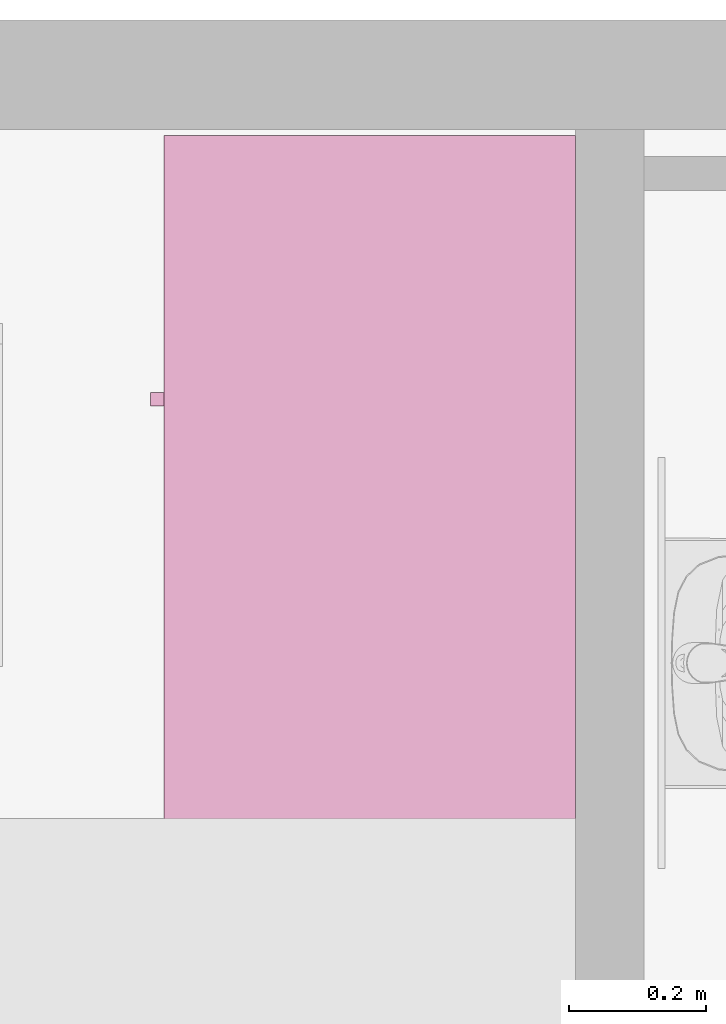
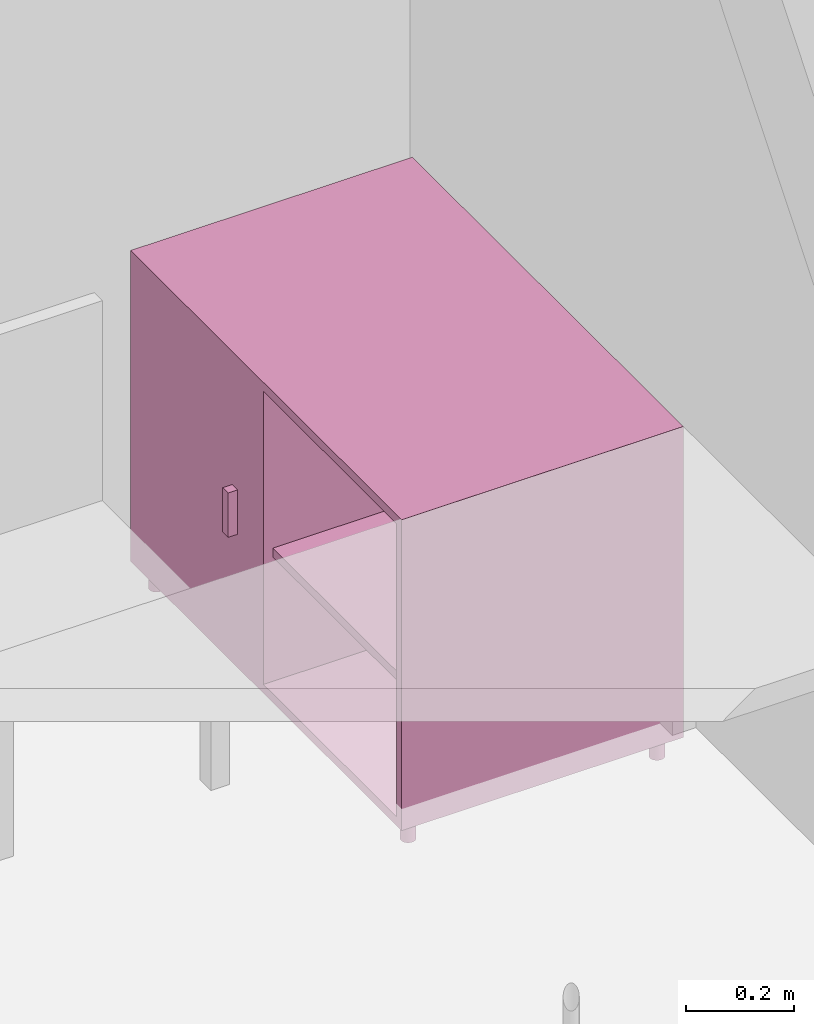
"""IFC4 building model written with IfcOpenShell, lengths in metres."""

from ifc_helpers import new_model, entity, si_unit, converted_unit, derived_unit, frame, origin, place, context, subcontext, project, spatial, faceted_brep, element, save


model = new_model("IFC4")

# Units and contexts
model_context = context("Model", 3, precision=1e-05, world=origin())
body_context = subcontext(model_context, "Body", "Model", "MODEL_VIEW")
ifc_project = project(units=[si_unit("LENGTHUNIT", "METRE"), si_unit("AREAUNIT", "SQUARE_METRE"), si_unit("VOLUMEUNIT", "CUBIC_METRE"), si_unit("MASSUNIT", "GRAM", prefix="KILO"), converted_unit("PLANEANGLEUNIT", "DEGREE", entity("IfcPlaneAngleMeasure", 0.0174532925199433), si_unit("PLANEANGLEUNIT", "RADIAN"), dimensions=[0, 0, 0, 0, 0, 0, 0]), derived_unit("THERMALTRANSMITTANCEUNIT", [(si_unit("POWERUNIT", "WATT"), 1), (si_unit("THERMODYNAMICTEMPERATUREUNIT", "KELVIN"), -1), (si_unit("LENGTHUNIT", "METRE"), -2)]), derived_unit("VOLUMETRICFLOWRATEUNIT", [(si_unit("LENGTHUNIT", "METRE"), 3), (converted_unit("TIMEUNIT", "hour", entity("IfcTimeMeasure", 3600.0), si_unit("TIMEUNIT", "SECOND"), dimensions=[0, 0, 1, 0, 0, 0, 0]), -1), (si_unit("LENGTHUNIT", "METRE"), -1)])], contexts=[model_context])

# Building, storeys
building_placement = place(None, origin())
building = spatial("IfcBuilding", under=ifc_project, at=building_placement, Name="HABITATGE PLURIFAMILIAR", CompositionType="ELEMENT")
storey_1_placement = place(building_placement, frame((0.0, 0.0, 9.26)))
storey_1 = spatial("IfcBuildingStorey", under=building, at=storey_1_placement, Name="PLANTA SEGONA", CompositionType="ELEMENT", Elevation=9.26)
storey_2_placement = place(storey_1_placement, frame((0.0, 0.0, 6.25)))
storey_2 = spatial("IfcBuildingStorey", under=storey_1, at=storey_2_placement, Name="NOU", CompositionType="PARTIAL")

# Furniture
furniture_placement = place(storey_2_placement, frame((403.716723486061, 27.0594940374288, -6.3499999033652)))
element("IfcFurniture", 1, at=furniture_placement, inside=storey_2, Name="Taula 100X60_P2", context=body_context, shape_type="Brep", body=[
    faceted_brep([(0.620000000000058, 0.0, 0.05), (0.02, 0.0, 0.05), (0.02, 0.0, 0.07), (0.620000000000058, 0.0, 0.07), (0.02, 1.00000000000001, 0.05), (0.02, 1.00000000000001, 0.07), (0.620000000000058, 1.00000000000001, 0.05), (0.620000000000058, 1.00000000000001, 0.07)], [[[0, 1, 2, 3]], [[1, 4, 5, 2]], [[4, 6, 7, 5]], [[6, 0, 3, 7]], [[0, 6, 4, 1]], [[3, 2, 5, 7]]], orient=[[False], [False], [False], [False], [False], [False]]),
    faceted_brep([(0.04, 0.0, 0.35), (0.62, 0.0, 0.35), (0.62, 1.0, 0.35), (0.04, 1.00000000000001, 0.35), (0.62, 0.0, 0.37), (0.04, 0.0, 0.37), (0.04, 1.00000000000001, 0.37), (0.62, 1.0, 0.37)], [[[0, 1, 2, 3]], [[4, 5, 6, 7]], [[1, 0, 5, 4]], [[2, 1, 4, 7]], [[3, 2, 7, 6]], [[0, 3, 6, 5]]], orient=[[False], [False], [False], [False], [False], [False]]),
    faceted_brep([(0.04, 0.510000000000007, 0.75), (0.04, 0.510000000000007, 0.05), (0.02, 0.510000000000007, 0.05), (0.02, 0.510000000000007, 0.75), (0.04, 1.00000000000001, 0.05), (0.02, 1.00000000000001, 0.05), (0.04, 1.00000000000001, 0.75), (0.02, 1.00000000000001, 0.75)], [[[0, 1, 2, 3]], [[1, 4, 5, 2]], [[4, 6, 7, 5]], [[6, 0, 3, 7]], [[0, 6, 4, 1]], [[3, 2, 5, 7]]], orient=[[False], [False], [False], [False], [False], [False]]),
    faceted_brep([(0.62, 0.0200000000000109, 0.75), (0.620000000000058, 0.0200000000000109, 0.0499999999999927), (0.620000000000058, 0.0, 0.0499999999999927), (0.62, 0.0, 0.75), (0.02, 0.0200000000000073, 0.05), (0.02, 0.0, 0.05), (0.02, 0.0200000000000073, 0.75), (0.02, 0.0, 0.75)], [[[0, 1, 2, 3]], [[1, 4, 5, 2]], [[4, 6, 7, 5]], [[6, 0, 3, 7]], [[0, 6, 4, 1]], [[3, 2, 5, 7]]], orient=[[False], [False], [False], [False], [False], [False]]),
    faceted_brep([(0.62, 0.530000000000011, 0.75), (0.620000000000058, 0.530000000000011, 0.0499999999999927), (0.620000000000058, 0.510000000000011, 0.0499999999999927), (0.62, 0.510000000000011, 0.75), (0.02, 0.530000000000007, 0.05), (0.02, 0.510000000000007, 0.05), (0.02, 0.530000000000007, 0.75), (0.02, 0.510000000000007, 0.75)], [[[0, 1, 2, 3]], [[1, 4, 5, 2]], [[4, 6, 7, 5]], [[6, 0, 3, 7]], [[0, 6, 4, 1]], [[3, 2, 5, 7]]], orient=[[False], [False], [False], [False], [False], [False]]),
    faceted_brep([(0.620000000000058, 0.530000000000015, 0.750000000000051), (0.620000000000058, 0.530000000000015, 0.0499999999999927), (0.620000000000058, 0.510000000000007, 0.0499999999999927), (0.620000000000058, 0.510000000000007, 0.750000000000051), (0.0400000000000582, 0.530000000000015, 0.0499999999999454), (0.0400000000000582, 0.510000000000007, 0.0499999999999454), (0.04, 0.530000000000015, 0.750000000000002), (0.04, 0.510000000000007, 0.750000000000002)], [[[0, 1, 2, 3]], [[1, 4, 5, 2]], [[4, 6, 7, 5]], [[6, 0, 3, 7]], [[0, 6, 4, 1]], [[3, 2, 5, 7]]], orient=[[False], [False], [False], [False], [False], [False]]),
    faceted_brep([(0.62, 1.00000000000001, 0.75), (0.620000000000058, 1.00000000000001, 0.0499999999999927), (0.620000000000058, 0.980000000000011, 0.0499999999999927), (0.62, 0.980000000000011, 0.75), (0.02, 1.00000000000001, 0.05), (0.02, 0.980000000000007, 0.05), (0.02, 1.00000000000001, 0.75), (0.02, 0.980000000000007, 0.75)], [[[0, 1, 2, 3]], [[1, 4, 5, 2]], [[4, 6, 7, 5]], [[6, 0, 3, 7]], [[0, 6, 4, 1]], [[3, 2, 5, 7]]], orient=[[False], [False], [False], [False], [False], [False]]),
    faceted_brep([(0.620000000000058, 0.0, 0.73), (0.02, 0.0, 0.73), (0.02, 0.0, 0.75), (0.620000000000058, 0.0, 0.75), (0.02, 1.00000000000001, 0.73), (0.02, 1.00000000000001, 0.75), (0.620000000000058, 1.00000000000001, 0.73), (0.620000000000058, 1.00000000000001, 0.75)], [[[0, 1, 2, 3]], [[1, 4, 5, 2]], [[4, 6, 7, 5]], [[6, 0, 3, 7]], [[0, 6, 4, 1]], [[3, 2, 5, 7]]], orient=[[False], [False], [False], [False], [False], [False]]),
    faceted_brep([(0.62, 0.0200000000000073, 0.75), (0.62, 0.0200000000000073, 0.05), (0.6, 0.0200000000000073, 0.05), (0.6, 0.0200000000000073, 0.75), (0.62, 1.00000000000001, 0.05), (0.6, 1.00000000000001, 0.05), (0.62, 1.00000000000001, 0.75), (0.6, 1.00000000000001, 0.75)], [[[0, 1, 2, 3]], [[1, 4, 5, 2]], [[4, 6, 7, 5]], [[6, 0, 3, 7]], [[0, 6, 4, 1]], [[3, 2, 5, 7]]], orient=[[False], [False], [False], [False], [False], [False]]),
    faceted_brep([(0.02, 0.625579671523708, 0.35), (0.0, 0.625579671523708, 0.35), (0.0, 0.605579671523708, 0.35), (0.02, 0.605579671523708, 0.35), (0.02, 0.605579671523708, 0.45), (0.0, 0.605579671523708, 0.45), (0.0, 0.625579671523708, 0.45), (0.02, 0.625579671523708, 0.45)], [[[0, 1, 2, 3]], [[4, 5, 6, 7]], [[3, 4, 7, 0]], [[2, 5, 4, 3]], [[1, 6, 5, 2]], [[0, 7, 6, 1]]], orient=[[False], [False], [False], [False], [False], [False]]),
    faceted_brep([(0.583821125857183, 0.049936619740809, 0.0), (0.581227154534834, 0.0497096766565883, 0.0), (0.578711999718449, 0.0490357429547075, 0.0), (0.5763520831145, 0.0479352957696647, 0.0), (0.574219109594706, 0.0464417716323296, 0.0), (0.57237788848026, 0.0446005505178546, 0.0), (0.570884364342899, 0.0424675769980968, 0.0), (0.569783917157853, 0.0401076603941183, 0.0), (0.569109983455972, 0.0375925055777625, 0.0), (0.568883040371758, 0.0349985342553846, 0.0), (0.569109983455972, 0.0324045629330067, 0.0), (0.569783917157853, 0.0298894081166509, 0.0), (0.570884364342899, 0.0275294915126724, 0.0), (0.57237788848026, 0.0253965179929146, 0.0), (0.574219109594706, 0.0235552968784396, 0.0), (0.5763520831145, 0.0220617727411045, 0.0), (0.578711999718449, 0.0209613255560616, 0.0), (0.581227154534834, 0.0202873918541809, 0.0), (0.583821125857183, 0.0200604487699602, 0.0), (0.586415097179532, 0.0202873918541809, 0.0), (0.588930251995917, 0.0209613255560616, 0.0), (0.591290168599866, 0.0220617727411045, 0.0), (0.59342314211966, 0.0235552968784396, 0.0), (0.595264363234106, 0.0253965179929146, 0.0), (0.596757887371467, 0.0275294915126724, 0.0), (0.597858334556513, 0.0298894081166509, 0.0), (0.598532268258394, 0.0324045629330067, 0.0), (0.598759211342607, 0.0349985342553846, 0.0), (0.598532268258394, 0.0375925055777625, 0.0), (0.597858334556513, 0.0401076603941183, 0.0), (0.596757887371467, 0.0424675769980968, 0.0), (0.595264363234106, 0.0446005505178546, 0.0), (0.59342314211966, 0.0464417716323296, 0.0), (0.591290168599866, 0.0479352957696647, 0.0), (0.588930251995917, 0.0490357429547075, 0.0), (0.586415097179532, 0.0497096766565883, 0.0), (0.583821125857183, 0.049936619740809, 0.05), (0.586415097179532, 0.0497096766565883, 0.05), (0.588930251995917, 0.0490357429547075, 0.05), (0.591290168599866, 0.0479352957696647, 0.05), (0.59342314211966, 0.0464417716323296, 0.05), (0.595264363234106, 0.0446005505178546, 0.05), (0.596757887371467, 0.0424675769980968, 0.05), (0.597858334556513, 0.0401076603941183, 0.05), (0.598532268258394, 0.0375925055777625, 0.05), (0.598759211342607, 0.0349985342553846, 0.05), (0.598532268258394, 0.0324045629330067, 0.05), (0.597858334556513, 0.0298894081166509, 0.05), (0.596757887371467, 0.0275294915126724, 0.05), (0.595264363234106, 0.0253965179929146, 0.05), (0.59342314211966, 0.0235552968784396, 0.05), (0.591290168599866, 0.0220617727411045, 0.05), (0.588930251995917, 0.0209613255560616, 0.05), (0.586415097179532, 0.0202873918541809, 0.05), (0.583821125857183, 0.0200604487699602, 0.05), (0.581227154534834, 0.0202873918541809, 0.05), (0.578711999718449, 0.0209613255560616, 0.05), (0.5763520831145, 0.0220617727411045, 0.05), (0.574219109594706, 0.0235552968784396, 0.05), (0.57237788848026, 0.0253965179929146, 0.05), (0.570884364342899, 0.0275294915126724, 0.05), (0.569783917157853, 0.0298894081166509, 0.05), (0.569109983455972, 0.0324045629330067, 0.05), (0.568883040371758, 0.0349985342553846, 0.05), (0.569109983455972, 0.0375925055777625, 0.05), (0.569783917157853, 0.0401076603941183, 0.05), (0.570884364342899, 0.0424675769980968, 0.05), (0.57237788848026, 0.0446005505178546, 0.05), (0.574219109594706, 0.0464417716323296, 0.05), (0.5763520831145, 0.0479352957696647, 0.05), (0.578711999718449, 0.0490357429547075, 0.05), (0.581227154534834, 0.0497096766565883, 0.05)], [[[0, 1, 2, 3, 4, 5, 6, 7, 8, 9, 10, 11, 12, 13, 14, 15, 16, 17, 18, 19, 20, 21, 22, 23, 24, 25, 26, 27, 28, 29, 30, 31, 32, 33, 34, 35]], [[36, 37, 38, 39, 40, 41, 42, 43, 44, 45, 46, 47, 48, 49, 50, 51, 52, 53, 54, 55, 56, 57, 58, 59, 60, 61, 62, 63, 64, 65, 66, 67, 68, 69, 70, 71]], [[1, 0, 36, 71]], [[2, 1, 71, 70]], [[3, 2, 70, 69]], [[4, 3, 69, 68]], [[5, 4, 68, 67]], [[6, 5, 67, 66]], [[7, 6, 66, 65]], [[8, 7, 65, 64]], [[9, 8, 64, 63]], [[10, 9, 63, 62]], [[11, 10, 62, 61]], [[12, 11, 61, 60]], [[13, 12, 60, 59]], [[14, 13, 59, 58]], [[15, 14, 58, 57]], [[16, 15, 57, 56]], [[17, 16, 56, 55]], [[18, 17, 55, 54]], [[19, 18, 54, 53]], [[20, 19, 53, 52]], [[21, 20, 52, 51]], [[22, 21, 51, 50]], [[23, 22, 50, 49]], [[24, 23, 49, 48]], [[25, 24, 48, 47]], [[26, 25, 47, 46]], [[27, 26, 46, 45]], [[28, 27, 45, 44]], [[29, 28, 44, 43]], [[30, 29, 43, 42]], [[31, 30, 42, 41]], [[32, 31, 41, 40]], [[33, 32, 40, 39]], [[34, 33, 39, 38]], [[35, 34, 38, 37]], [[0, 35, 37, 36]]], orient=[[False], [False], [False], [False], [False], [False], [False], [False], [False], [False], [False], [False], [False], [False], [False], [False], [False], [False], [False], [False], [False], [False], [False], [False], [False], [False], [False], [False], [False], [False], [False], [False], [False], [False], [False], [False], [False], [False]]),
    faceted_brep([(0.0538211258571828, 0.0499366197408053, 0.0), (0.051227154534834, 0.0497096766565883, 0.0), (0.0487119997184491, 0.0490357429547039, 0.0), (0.0463520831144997, 0.047935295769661, 0.0), (0.0442191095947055, 0.0464417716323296, 0.0), (0.0423778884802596, 0.0446005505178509, 0.0), (0.0408843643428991, 0.0424675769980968, 0.0), (0.0397839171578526, 0.0401076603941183, 0.0), (0.0391099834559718, 0.0375925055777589, 0.0), (0.0388830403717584, 0.0349985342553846, 0.0), (0.0391099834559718, 0.0324045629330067, 0.0), (0.0397839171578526, 0.0298894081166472, 0.0), (0.0408843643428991, 0.0275294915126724, 0.0), (0.0423778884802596, 0.0253965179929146, 0.0), (0.0442191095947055, 0.0235552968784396, 0.0), (0.0463520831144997, 0.0220617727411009, 0.0), (0.0487119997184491, 0.0209613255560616, 0.0), (0.051227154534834, 0.0202873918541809, 0.0), (0.0538211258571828, 0.0200604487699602, 0.0), (0.0564150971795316, 0.0202873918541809, 0.0), (0.0589302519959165, 0.0209613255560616, 0.0), (0.0612901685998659, 0.0220617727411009, 0.0), (0.06342314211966, 0.0235552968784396, 0.0), (0.065264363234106, 0.0253965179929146, 0.0), (0.0667578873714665, 0.0275294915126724, 0.0), (0.067858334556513, 0.0298894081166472, 0.0), (0.0685322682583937, 0.0324045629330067, 0.0), (0.0687592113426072, 0.0349985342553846, 0.0), (0.0685322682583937, 0.0375925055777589, 0.0), (0.067858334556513, 0.0401076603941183, 0.0), (0.0667578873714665, 0.0424675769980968, 0.0), (0.065264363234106, 0.0446005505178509, 0.0), (0.06342314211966, 0.0464417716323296, 0.0), (0.0612901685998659, 0.047935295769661, 0.0), (0.0589302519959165, 0.0490357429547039, 0.0), (0.0564150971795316, 0.0497096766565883, 0.0), (0.0538211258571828, 0.0499366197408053, 0.05), (0.0564150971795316, 0.0497096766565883, 0.05), (0.0589302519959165, 0.0490357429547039, 0.05), (0.0612901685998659, 0.047935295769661, 0.05), (0.06342314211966, 0.0464417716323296, 0.05), (0.065264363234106, 0.0446005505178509, 0.05), (0.0667578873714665, 0.0424675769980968, 0.05), (0.067858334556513, 0.0401076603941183, 0.05), (0.0685322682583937, 0.0375925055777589, 0.05), (0.0687592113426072, 0.0349985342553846, 0.05), (0.0685322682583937, 0.0324045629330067, 0.05), (0.067858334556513, 0.0298894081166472, 0.05), (0.0667578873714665, 0.0275294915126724, 0.05), (0.065264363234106, 0.0253965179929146, 0.05), (0.06342314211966, 0.0235552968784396, 0.05), (0.0612901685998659, 0.0220617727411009, 0.05), (0.0589302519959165, 0.0209613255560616, 0.05), (0.0564150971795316, 0.0202873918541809, 0.05), (0.0538211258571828, 0.0200604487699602, 0.05), (0.051227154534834, 0.0202873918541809, 0.05), (0.0487119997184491, 0.0209613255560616, 0.05), (0.0463520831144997, 0.0220617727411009, 0.05), (0.0442191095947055, 0.0235552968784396, 0.05), (0.0423778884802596, 0.0253965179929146, 0.05), (0.0408843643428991, 0.0275294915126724, 0.05), (0.0397839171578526, 0.0298894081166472, 0.05), (0.0391099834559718, 0.0324045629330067, 0.05), (0.0388830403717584, 0.0349985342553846, 0.05), (0.0391099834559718, 0.0375925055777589, 0.05), (0.0397839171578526, 0.0401076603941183, 0.05), (0.0408843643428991, 0.0424675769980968, 0.05), (0.0423778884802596, 0.0446005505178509, 0.05), (0.0442191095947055, 0.0464417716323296, 0.05), (0.0463520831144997, 0.047935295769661, 0.05), (0.0487119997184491, 0.0490357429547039, 0.05), (0.051227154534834, 0.0497096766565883, 0.05)], [[[0, 1, 2, 3, 4, 5, 6, 7, 8, 9, 10, 11, 12, 13, 14, 15, 16, 17, 18, 19, 20, 21, 22, 23, 24, 25, 26, 27, 28, 29, 30, 31, 32, 33, 34, 35]], [[36, 37, 38, 39, 40, 41, 42, 43, 44, 45, 46, 47, 48, 49, 50, 51, 52, 53, 54, 55, 56, 57, 58, 59, 60, 61, 62, 63, 64, 65, 66, 67, 68, 69, 70, 71]], [[1, 0, 36, 71]], [[2, 1, 71, 70]], [[3, 2, 70, 69]], [[4, 3, 69, 68]], [[5, 4, 68, 67]], [[6, 5, 67, 66]], [[7, 6, 66, 65]], [[8, 7, 65, 64]], [[9, 8, 64, 63]], [[10, 9, 63, 62]], [[11, 10, 62, 61]], [[12, 11, 61, 60]], [[13, 12, 60, 59]], [[14, 13, 59, 58]], [[15, 14, 58, 57]], [[16, 15, 57, 56]], [[17, 16, 56, 55]], [[18, 17, 55, 54]], [[19, 18, 54, 53]], [[20, 19, 53, 52]], [[21, 20, 52, 51]], [[22, 21, 51, 50]], [[23, 22, 50, 49]], [[24, 23, 49, 48]], [[25, 24, 48, 47]], [[26, 25, 47, 46]], [[27, 26, 46, 45]], [[28, 27, 45, 44]], [[29, 28, 44, 43]], [[30, 29, 43, 42]], [[31, 30, 42, 41]], [[32, 31, 41, 40]], [[33, 32, 40, 39]], [[34, 33, 39, 38]], [[35, 34, 38, 37]], [[0, 35, 37, 36]]], orient=[[False], [False], [False], [False], [False], [False], [False], [False], [False], [False], [False], [False], [False], [False], [False], [False], [False], [False], [False], [False], [False], [False], [False], [False], [False], [False], [False], [False], [False], [False], [False], [False], [False], [False], [False], [False], [False], [False]]),
    faceted_brep([(0.0550000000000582, 0.979982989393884, 0.0), (0.0524060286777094, 0.979756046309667, 0.0), (0.0498908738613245, 0.979082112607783, 0.0), (0.0475309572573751, 0.97798166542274, 0.0), (0.0453979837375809, 0.976488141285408, 0.0), (0.043556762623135, 0.97464692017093, 0.0), (0.0420632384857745, 0.972513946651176, 0.0), (0.040962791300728, 0.970154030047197, 0.0), (0.0402888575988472, 0.967638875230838, 0.0), (0.0400619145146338, 0.965044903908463, 0.0), (0.0402888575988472, 0.962450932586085, 0.0), (0.040962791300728, 0.959935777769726, 0.0), (0.0420632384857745, 0.957575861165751, 0.0), (0.043556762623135, 0.955442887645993, 0.0), (0.0453979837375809, 0.953601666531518, 0.0), (0.0475309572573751, 0.95210814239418, 0.0), (0.0498908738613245, 0.95100769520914, 0.0), (0.0524060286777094, 0.95033376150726, 0.0), (0.0550000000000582, 0.950106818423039, 0.0), (0.057593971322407, 0.95033376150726, 0.0), (0.0601091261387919, 0.95100769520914, 0.0), (0.0624690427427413, 0.95210814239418, 0.0), (0.0646020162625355, 0.953601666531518, 0.0), (0.0664432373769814, 0.955442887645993, 0.0), (0.0679367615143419, 0.957575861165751, 0.0), (0.0690372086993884, 0.959935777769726, 0.0), (0.0697111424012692, 0.962450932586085, 0.0), (0.0699380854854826, 0.965044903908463, 0.0), (0.0697111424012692, 0.967638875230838, 0.0), (0.0690372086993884, 0.970154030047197, 0.0), (0.0679367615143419, 0.972513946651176, 0.0), (0.0664432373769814, 0.97464692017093, 0.0), (0.0646020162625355, 0.976488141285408, 0.0), (0.0624690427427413, 0.97798166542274, 0.0), (0.0601091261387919, 0.979082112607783, 0.0), (0.057593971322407, 0.979756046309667, 0.0), (0.0550000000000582, 0.979982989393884, 0.05), (0.057593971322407, 0.979756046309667, 0.05), (0.0601091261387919, 0.979082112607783, 0.05), (0.0624690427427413, 0.97798166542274, 0.05), (0.0646020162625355, 0.976488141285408, 0.05), (0.0664432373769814, 0.97464692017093, 0.05), (0.0679367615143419, 0.972513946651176, 0.05), (0.0690372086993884, 0.970154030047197, 0.05), (0.0697111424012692, 0.967638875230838, 0.05), (0.0699380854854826, 0.965044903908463, 0.05), (0.0697111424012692, 0.962450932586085, 0.05), (0.0690372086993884, 0.959935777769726, 0.05), (0.0679367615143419, 0.957575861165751, 0.05), (0.0664432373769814, 0.955442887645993, 0.05), (0.0646020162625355, 0.953601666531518, 0.05), (0.0624690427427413, 0.95210814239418, 0.05), (0.0601091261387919, 0.95100769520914, 0.05), (0.057593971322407, 0.95033376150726, 0.05), (0.0550000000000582, 0.950106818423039, 0.05), (0.0524060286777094, 0.95033376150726, 0.05), (0.0498908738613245, 0.95100769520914, 0.05), (0.0475309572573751, 0.95210814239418, 0.05), (0.0453979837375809, 0.953601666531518, 0.05), (0.043556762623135, 0.955442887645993, 0.05), (0.0420632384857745, 0.957575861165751, 0.05), (0.040962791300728, 0.959935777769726, 0.05), (0.0402888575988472, 0.962450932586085, 0.05), (0.0400619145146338, 0.965044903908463, 0.05), (0.0402888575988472, 0.967638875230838, 0.05), (0.040962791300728, 0.970154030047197, 0.05), (0.0420632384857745, 0.972513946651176, 0.05), (0.043556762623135, 0.97464692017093, 0.05), (0.0453979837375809, 0.976488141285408, 0.05), (0.0475309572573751, 0.97798166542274, 0.05), (0.0498908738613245, 0.979082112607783, 0.05), (0.0524060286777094, 0.979756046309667, 0.05)], [[[0, 1, 2, 3, 4, 5, 6, 7, 8, 9, 10, 11, 12, 13, 14, 15, 16, 17, 18, 19, 20, 21, 22, 23, 24, 25, 26, 27, 28, 29, 30, 31, 32, 33, 34, 35]], [[36, 37, 38, 39, 40, 41, 42, 43, 44, 45, 46, 47, 48, 49, 50, 51, 52, 53, 54, 55, 56, 57, 58, 59, 60, 61, 62, 63, 64, 65, 66, 67, 68, 69, 70, 71]], [[1, 0, 36, 71]], [[2, 1, 71, 70]], [[3, 2, 70, 69]], [[4, 3, 69, 68]], [[5, 4, 68, 67]], [[6, 5, 67, 66]], [[7, 6, 66, 65]], [[8, 7, 65, 64]], [[9, 8, 64, 63]], [[10, 9, 63, 62]], [[11, 10, 62, 61]], [[12, 11, 61, 60]], [[13, 12, 60, 59]], [[14, 13, 59, 58]], [[15, 14, 58, 57]], [[16, 15, 57, 56]], [[17, 16, 56, 55]], [[18, 17, 55, 54]], [[19, 18, 54, 53]], [[20, 19, 53, 52]], [[21, 20, 52, 51]], [[22, 21, 51, 50]], [[23, 22, 50, 49]], [[24, 23, 49, 48]], [[25, 24, 48, 47]], [[26, 25, 47, 46]], [[27, 26, 46, 45]], [[28, 27, 45, 44]], [[29, 28, 44, 43]], [[30, 29, 43, 42]], [[31, 30, 42, 41]], [[32, 31, 41, 40]], [[33, 32, 40, 39]], [[34, 33, 39, 38]], [[35, 34, 38, 37]], [[0, 35, 37, 36]]], orient=[[False], [False], [False], [False], [False], [False], [False], [False], [False], [False], [False], [False], [False], [False], [False], [False], [False], [False], [False], [False], [False], [False], [False], [False], [False], [False], [False], [False], [False], [False], [False], [False], [False], [False], [False], [False], [False], [False]]),
    faceted_brep([(0.585033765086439, 0.979647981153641, 0.0), (0.58243979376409, 0.97942103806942, 0.0), (0.579924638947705, 0.97874710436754, 0.0), (0.577564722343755, 0.977646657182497, 0.0), (0.575431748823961, 0.976153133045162, 0.0), (0.573590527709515, 0.974311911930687, 0.0), (0.572097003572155, 0.972178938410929, 0.0), (0.570996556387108, 0.96981902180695, 0.0), (0.570322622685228, 0.967303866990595, 0.0), (0.570095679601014, 0.964709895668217, 0.0), (0.570322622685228, 0.962115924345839, 0.0), (0.570996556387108, 0.959600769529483, 0.0), (0.572097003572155, 0.957240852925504, 0.0), (0.573590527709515, 0.955107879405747, 0.0), (0.575431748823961, 0.953266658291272, 0.0), (0.577564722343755, 0.951773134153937, 0.0), (0.579924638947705, 0.950672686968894, 0.0), (0.58243979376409, 0.949998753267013, 0.0), (0.585033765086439, 0.949771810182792, 0.0), (0.587627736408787, 0.949998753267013, 0.0), (0.590142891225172, 0.950672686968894, 0.0), (0.592502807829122, 0.951773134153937, 0.0), (0.594635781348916, 0.953266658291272, 0.0), (0.596477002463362, 0.955107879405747, 0.0), (0.597970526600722, 0.957240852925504, 0.0), (0.599070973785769, 0.959600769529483, 0.0), (0.59974490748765, 0.962115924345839, 0.0), (0.599971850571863, 0.964709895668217, 0.0), (0.59974490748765, 0.967303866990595, 0.0), (0.599070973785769, 0.96981902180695, 0.0), (0.597970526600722, 0.972178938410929, 0.0), (0.596477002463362, 0.974311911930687, 0.0), (0.594635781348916, 0.976153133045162, 0.0), (0.592502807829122, 0.977646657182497, 0.0), (0.590142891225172, 0.97874710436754, 0.0), (0.587627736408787, 0.97942103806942, 0.0), (0.585033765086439, 0.979647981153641, 0.05), (0.587627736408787, 0.97942103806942, 0.05), (0.590142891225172, 0.97874710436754, 0.05), (0.592502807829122, 0.977646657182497, 0.05), (0.594635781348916, 0.976153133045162, 0.05), (0.596477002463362, 0.974311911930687, 0.05), (0.597970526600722, 0.972178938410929, 0.05), (0.599070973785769, 0.96981902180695, 0.05), (0.59974490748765, 0.967303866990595, 0.05), (0.599971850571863, 0.964709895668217, 0.05), (0.59974490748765, 0.962115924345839, 0.05), (0.599070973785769, 0.959600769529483, 0.05), (0.597970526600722, 0.957240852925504, 0.05), (0.596477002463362, 0.955107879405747, 0.05), (0.594635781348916, 0.953266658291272, 0.05), (0.592502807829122, 0.951773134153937, 0.05), (0.590142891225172, 0.950672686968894, 0.05), (0.587627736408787, 0.949998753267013, 0.05), (0.585033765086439, 0.949771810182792, 0.05), (0.58243979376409, 0.949998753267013, 0.05), (0.579924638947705, 0.950672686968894, 0.05), (0.577564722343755, 0.951773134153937, 0.05), (0.575431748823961, 0.953266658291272, 0.05), (0.573590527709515, 0.955107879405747, 0.05), (0.572097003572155, 0.957240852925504, 0.05), (0.570996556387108, 0.959600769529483, 0.05), (0.570322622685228, 0.962115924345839, 0.05), (0.570095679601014, 0.964709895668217, 0.05), (0.570322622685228, 0.967303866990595, 0.05), (0.570996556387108, 0.96981902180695, 0.05), (0.572097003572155, 0.972178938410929, 0.05), (0.573590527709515, 0.974311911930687, 0.05), (0.575431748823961, 0.976153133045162, 0.05), (0.577564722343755, 0.977646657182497, 0.05), (0.579924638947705, 0.97874710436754, 0.05), (0.58243979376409, 0.97942103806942, 0.05)], [[[0, 1, 2, 3, 4, 5, 6, 7, 8, 9, 10, 11, 12, 13, 14, 15, 16, 17, 18, 19, 20, 21, 22, 23, 24, 25, 26, 27, 28, 29, 30, 31, 32, 33, 34, 35]], [[36, 37, 38, 39, 40, 41, 42, 43, 44, 45, 46, 47, 48, 49, 50, 51, 52, 53, 54, 55, 56, 57, 58, 59, 60, 61, 62, 63, 64, 65, 66, 67, 68, 69, 70, 71]], [[1, 0, 36, 71]], [[2, 1, 71, 70]], [[3, 2, 70, 69]], [[4, 3, 69, 68]], [[5, 4, 68, 67]], [[6, 5, 67, 66]], [[7, 6, 66, 65]], [[8, 7, 65, 64]], [[9, 8, 64, 63]], [[10, 9, 63, 62]], [[11, 10, 62, 61]], [[12, 11, 61, 60]], [[13, 12, 60, 59]], [[14, 13, 59, 58]], [[15, 14, 58, 57]], [[16, 15, 57, 56]], [[17, 16, 56, 55]], [[18, 17, 55, 54]], [[19, 18, 54, 53]], [[20, 19, 53, 52]], [[21, 20, 52, 51]], [[22, 21, 51, 50]], [[23, 22, 50, 49]], [[24, 23, 49, 48]], [[25, 24, 48, 47]], [[26, 25, 47, 46]], [[27, 26, 46, 45]], [[28, 27, 45, 44]], [[29, 28, 44, 43]], [[30, 29, 43, 42]], [[31, 30, 42, 41]], [[32, 31, 41, 40]], [[33, 32, 40, 39]], [[34, 33, 39, 38]], [[35, 34, 38, 37]], [[0, 35, 37, 36]]], orient=[[False], [False], [False], [False], [False], [False], [False], [False], [False], [False], [False], [False], [False], [False], [False], [False], [False], [False], [False], [False], [False], [False], [False], [False], [False], [False], [False], [False], [False], [False], [False], [False], [False], [False], [False], [False], [False], [False]]),
])

save(model, "model.ifc")
